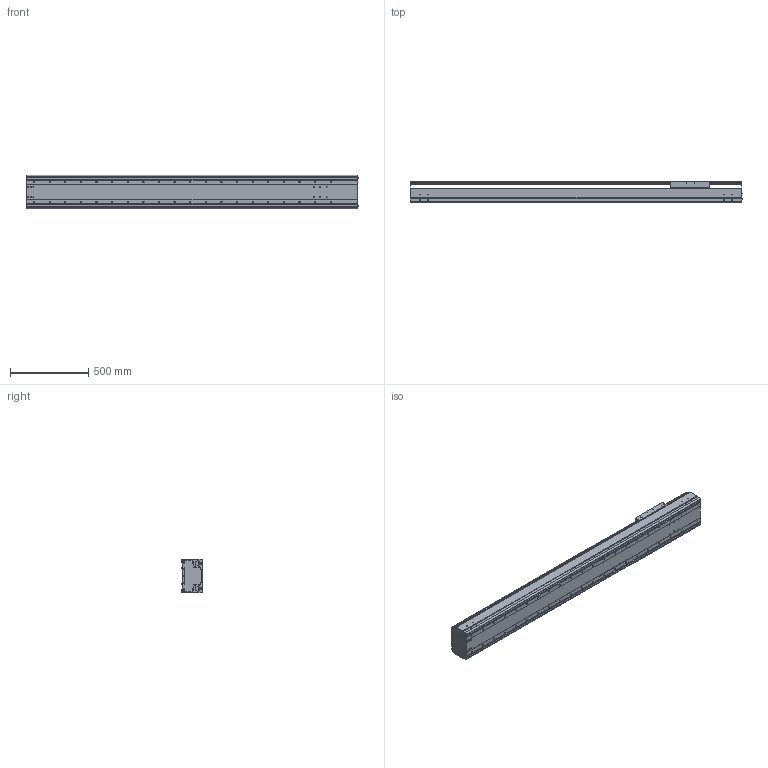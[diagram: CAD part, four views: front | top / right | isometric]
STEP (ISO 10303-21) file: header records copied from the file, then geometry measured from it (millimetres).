
FILE_DESCRIPTION((''),'2;1');
FILE_NAME('BE60J-ST-M_B-G0_IGS_PRT','2017-06-18T',(' '),(''),'PRO/ENGINEER BY PARAMETRIC TECHNOLOGY CORPORATION, 2015030','PRO/ENGINEER BY PARAMETRIC TECHNOLOGY CORPORATION, 2015030','');
FILE_SCHEMA(('CONFIG_CONTROL_DESIGN'));
Length unit declared in the file: millimetre
Products named in the file (1): BE60J-ST-M_B-G0_IGS_PRT
Bounding box: 2127.4 x 140 x 214 mm (x, y, z)
Volume: 16317597 mm3; surface area: 4346797 mm2
Topology: 2 solids, 28 shells, 1139 faces, 2994 edges, 1930 vertices
Faces by surface type: plane 537, cylinder 502, cone 52, torus 24, sphere 24
Entity records: 35495 total; most frequent: CARTESIAN_POINT 6604, DIRECTION 6200, ORIENTED_EDGE 5788, EDGE_CURVE 2942, AXIS2_PLACEMENT_3D 2232, VERTEX_POINT 1928, VECTOR 1736, LINE 1736
